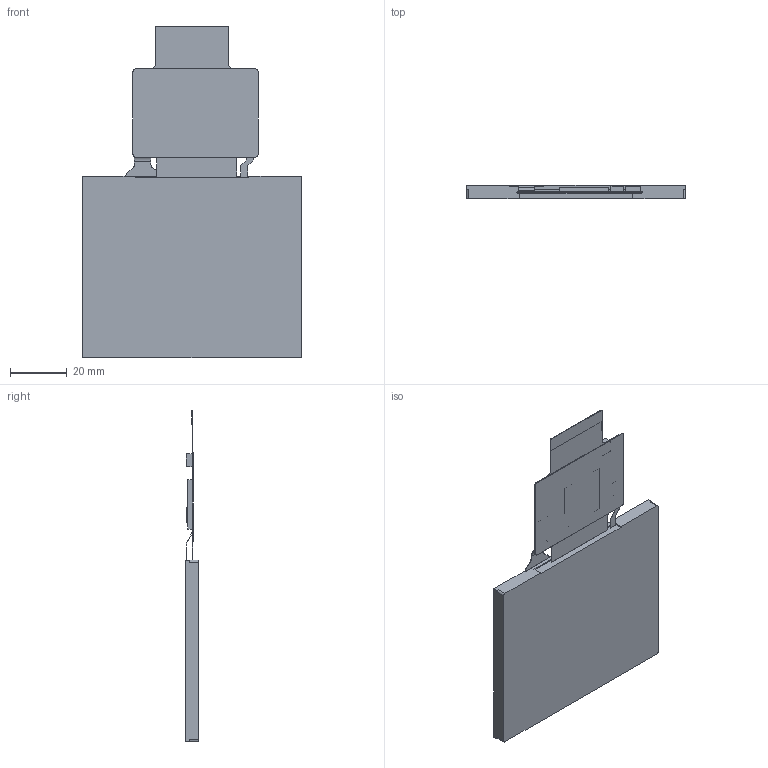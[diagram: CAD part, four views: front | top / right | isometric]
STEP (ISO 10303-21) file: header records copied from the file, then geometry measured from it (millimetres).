
FILE_DESCRIPTION((''),'2;1');
FILE_NAME('DMG32240F035_01WTR','2024-09-11T',('Administrator'),(''),'PRO/ENGINEER BY PARAMETRIC TECHNOLOGY CORPORATION, 2008380','PRO/ENGINEER BY PARAMETRIC TECHNOLOGY CORPORATION, 2008380','');
FILE_SCHEMA(('CONFIG_CONTROL_DESIGN'));
Length unit declared in the file: millimetre
Products named in the file (1): DMG32240F035_01WTR
Bounding box: 76.84 x 4.76 x 116.55 mm (x, y, z)
Volume: 23581.7 mm3; surface area: 23651.6 mm2
Topology: 1 solids, 2 shells, 94 faces, 805 edges, 818 vertices
Faces by surface type: plane 70, cylinder 24
Entity records: 6569 total; most frequent: DIRECTION 1280, CARTESIAN_POINT 1074, TRIMMED_CURVE 546, VECTOR 524, LINE 524, ORIENTED_EDGE 518, COMPOSITE_CURVE_SEGMENT 466, AXIS2_PLACEMENT_3D 378
